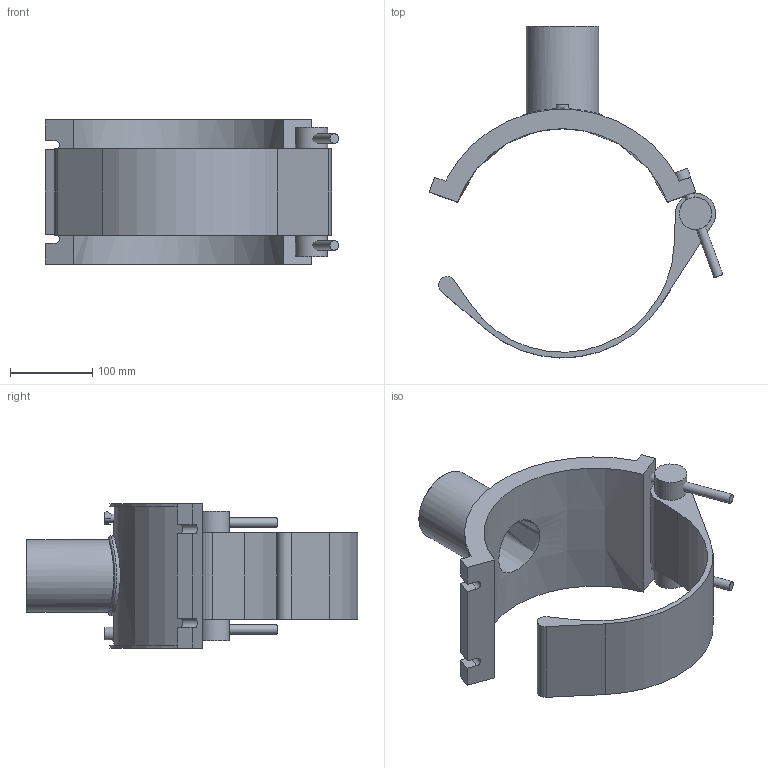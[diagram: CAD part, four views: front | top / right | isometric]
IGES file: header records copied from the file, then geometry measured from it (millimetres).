
Global section: file name: 5958BB03100030.ipt; native system: Autodesk Inventor 2019; preprocessor: unknown; author: KIM; date: 20210830.101306; units: inch
Bounding box: 357.95 x 404.7 x 176.02 mm (x, y, z)
Volume: 2223370.3 mm3; surface area: 354085.1 mm2
Topology: 5 solids, 5 shells, 65 faces, 135 edges, 91 vertices
Faces by surface type: plane 37, cylinder 17, revolution 7, cone 3, bspline 1
Full cylindrical faces by diameter (mm): 4 x2, 11.453 x2, 19.089 x2, 39.269 x2, 88.7 x1, 97.57 x1
